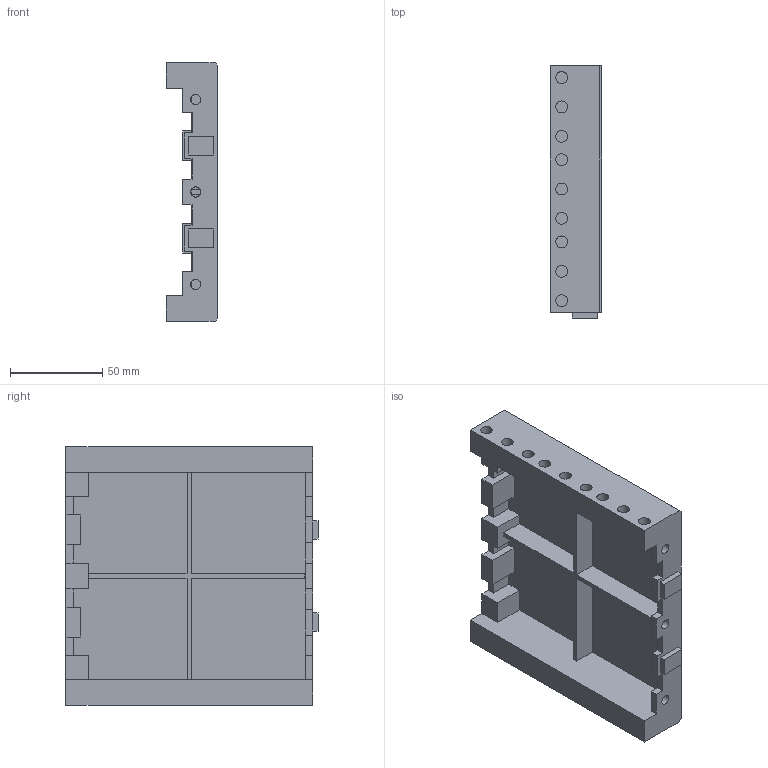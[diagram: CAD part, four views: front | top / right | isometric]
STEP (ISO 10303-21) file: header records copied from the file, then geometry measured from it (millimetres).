
FILE_DESCRIPTION(('Open CASCADE Model'),'2;1');
FILE_NAME('Open CASCADE Shape Model','2026-10-28T13:12:27',('Author'),( 'Open CASCADE'),'Open CASCADE STEP processor 7.9','Open CASCADE 7.9' ,'Unknown');
FILE_SCHEMA(('AUTOMOTIVE_DESIGN { 1 0 10303 214 1 1 1 1 }'));
Length unit declared in the file: millimetre
Products named in the file (1): Open CASCADE STEP translator 7.9 2
Bounding box: 28 x 136.35 x 140 mm (x, y, z)
Volume: 159959.6 mm3; surface area: 70799.3 mm2
Topology: 1 solids, 1 shells, 134 faces, 324 edges, 216 vertices
Faces by surface type: plane 110, cylinder 24
Full cylindrical faces by diameter (mm): 5.5 x3, 6.4 x21
Entity records: 8005 total; most frequent: CARTESIAN_POINT 1673, DIRECTION 1077, LINE 684, VECTOR 684, ORIENTED_EDGE 648, PCURVE 648, DEFINITIONAL_REPRESENTATION 648, EDGE_CURVE 324
